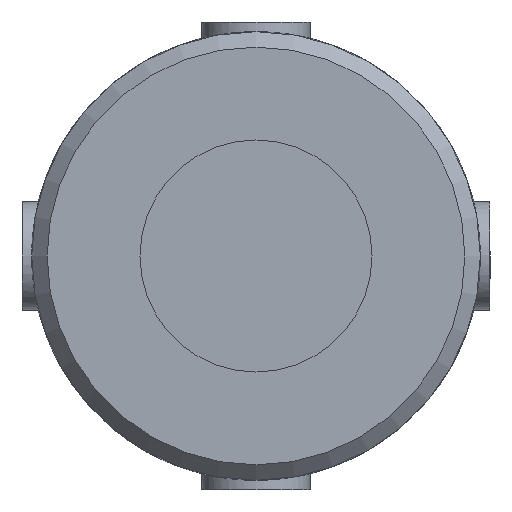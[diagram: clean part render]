
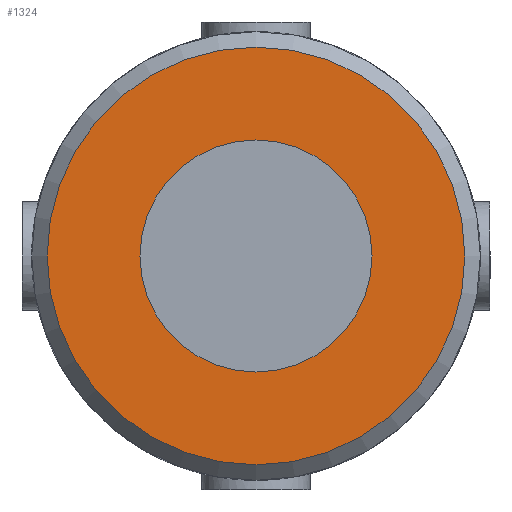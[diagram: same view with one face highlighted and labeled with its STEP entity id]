
A CAD part, front view. The second image highlights one B-rep face of the part: STEP entity #1324.
In plain terms, the highlighted planar face has unit normal (0, -1, 0).
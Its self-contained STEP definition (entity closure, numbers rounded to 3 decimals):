
#263=PLANE('',#1455);
#302=FACE_BOUND('',#479,.T.);
#368=FACE_OUTER_BOUND('',#478,.T.);
#478=EDGE_LOOP('',(#1149));
#479=EDGE_LOOP('',(#1150));
#546=CIRCLE('',#1450,15.);
#548=CIRCLE('',#1453,27.);
#658=VERTEX_POINT('',#2639);
#660=VERTEX_POINT('',#2644);
#825=EDGE_CURVE('',#658,#658,#546,.T.);
#827=EDGE_CURVE('',#660,#660,#548,.T.);
#1149=ORIENTED_EDGE('',*,*,#827,.F.);
#1150=ORIENTED_EDGE('',*,*,#825,.T.);
#1324=ADVANCED_FACE('',(#368,#302),#263,.F.);
#1450=AXIS2_PLACEMENT_3D('',#2640,#1736,#1737);
#1453=AXIS2_PLACEMENT_3D('',#2645,#1742,#1743);
#1455=AXIS2_PLACEMENT_3D('',#2845,#1750,#1751);
#1736=DIRECTION('center_axis',(0.,1.,0.));
#1737=DIRECTION('ref_axis',(-1.,0.,0.));
#1742=DIRECTION('center_axis',(0.,1.,0.));
#1743=DIRECTION('ref_axis',(1.,0.,0.));
#1750=DIRECTION('center_axis',(0.,1.,0.));
#1751=DIRECTION('ref_axis',(0.,0.,1.));
#2639=CARTESIAN_POINT('',(15.,-75.5,0.));
#2640=CARTESIAN_POINT('Origin',(0.,-75.5,0.));
#2644=CARTESIAN_POINT('',(-27.,-75.5,0.));
#2645=CARTESIAN_POINT('Origin',(0.,-75.5,0.));
#2845=CARTESIAN_POINT('Origin',(0.,-75.5,0.));
